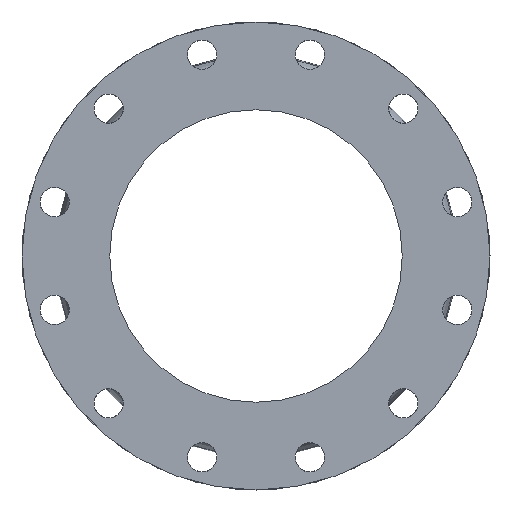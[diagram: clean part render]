
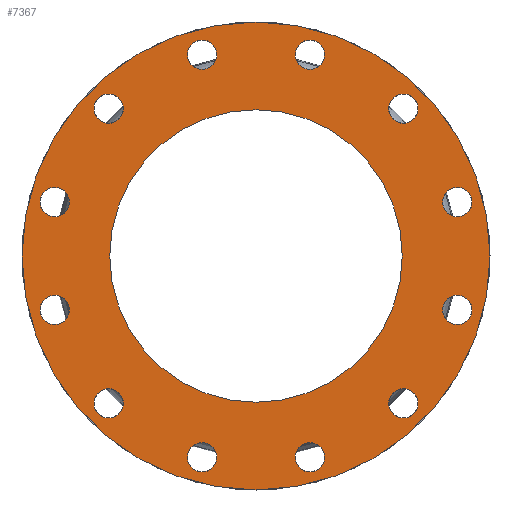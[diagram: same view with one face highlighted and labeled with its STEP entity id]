
A CAD part, left-side view. The second image highlights one B-rep face of the part: STEP entity #7367.
In plain terms, the highlighted planar face has unit normal (-1, 0, 0).
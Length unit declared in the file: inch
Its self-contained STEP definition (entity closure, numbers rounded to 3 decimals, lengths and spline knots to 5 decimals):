
#6128=CARTESIAN_POINT('',(-6.,5.28814,-4.60512));
#6129=VERTEX_POINT('',#6128);
#6130=CARTESIAN_POINT('',(-6.,5.03814,-5.03814));
#6131=DIRECTION('',(1.0,0.0,0.0));
#6132=DIRECTION('',(0.0,-0.5,-0.866));
#6133=AXIS2_PLACEMENT_3D('',#6130,#6131,#6132);
#6134=CIRCLE('',#6133,0.5);
#6135=EDGE_CURVE('',#6129,#6129,#6134,.T.);
#6156=CARTESIAN_POINT('',(-6.,2.2771,-6.63222));
#6157=VERTEX_POINT('',#6156);
#6158=CARTESIAN_POINT('',(-6.,1.84409,-6.88222));
#6159=DIRECTION('',(1.,0.0,0.0));
#6160=DIRECTION('',(0.0,-0.866,-0.5));
#6161=AXIS2_PLACEMENT_3D('',#6158,#6159,#6160);
#6162=CIRCLE('',#6161,0.5);
#6163=EDGE_CURVE('',#6157,#6157,#6162,.T.);
#6184=CARTESIAN_POINT('',(-6.,-1.34409,-6.88222));
#6185=VERTEX_POINT('',#6184);
#6186=CARTESIAN_POINT('',(-6.,-1.84409,-6.88222));
#6187=DIRECTION('',(1.0,0.0,0.0));
#6188=DIRECTION('',(0.0,-1.0,0.0));
#6189=AXIS2_PLACEMENT_3D('',#6186,#6187,#6188);
#6190=CIRCLE('',#6189,0.5);
#6191=EDGE_CURVE('',#6185,#6185,#6190,.T.);
#6212=CARTESIAN_POINT('',(-6.,-4.60512,-5.28814));
#6213=VERTEX_POINT('',#6212);
#6214=CARTESIAN_POINT('',(-6.,-5.03814,-5.03814));
#6215=DIRECTION('',(1.0,0.0,0.0));
#6216=DIRECTION('',(0.0,-0.866,0.5));
#6217=AXIS2_PLACEMENT_3D('',#6214,#6215,#6216);
#6218=CIRCLE('',#6217,0.5);
#6219=EDGE_CURVE('',#6213,#6213,#6218,.T.);
#6240=CARTESIAN_POINT('',(-6.,-6.63222,-2.2771));
#6241=VERTEX_POINT('',#6240);
#6242=CARTESIAN_POINT('',(-6.,-6.88222,-1.84409));
#6243=DIRECTION('',(1.0,0.0,0.0));
#6244=DIRECTION('',(0.0,-0.5,0.866));
#6245=AXIS2_PLACEMENT_3D('',#6242,#6243,#6244);
#6246=CIRCLE('',#6245,0.5);
#6247=EDGE_CURVE('',#6241,#6241,#6246,.T.);
#6268=CARTESIAN_POINT('',(-6.,-6.88222,1.34409));
#6269=VERTEX_POINT('',#6268);
#6270=CARTESIAN_POINT('',(-6.,-6.88222,1.84409));
#6271=DIRECTION('',(1.0,0.0,0.0));
#6272=DIRECTION('',(0.0,0.0,1.0));
#6273=AXIS2_PLACEMENT_3D('',#6270,#6271,#6272);
#6274=CIRCLE('',#6273,0.5);
#6275=EDGE_CURVE('',#6269,#6269,#6274,.T.);
#6296=CARTESIAN_POINT('',(-6.,-5.28814,4.60512));
#6297=VERTEX_POINT('',#6296);
#6298=CARTESIAN_POINT('',(-6.,-5.03814,5.03814));
#6299=DIRECTION('',(1.0,0.0,0.0));
#6300=DIRECTION('',(0.0,0.5,0.866));
#6301=AXIS2_PLACEMENT_3D('',#6298,#6299,#6300);
#6302=CIRCLE('',#6301,0.5);
#6303=EDGE_CURVE('',#6297,#6297,#6302,.T.);
#6324=CARTESIAN_POINT('',(-6.,-2.2771,6.63222));
#6325=VERTEX_POINT('',#6324);
#6326=CARTESIAN_POINT('',(-6.,-1.84409,6.88222));
#6327=DIRECTION('',(1.0,0.0,0.0));
#6328=DIRECTION('',(0.0,0.866,0.5));
#6329=AXIS2_PLACEMENT_3D('',#6326,#6327,#6328);
#6330=CIRCLE('',#6329,0.5);
#6331=EDGE_CURVE('',#6325,#6325,#6330,.T.);
#6352=CARTESIAN_POINT('',(-6.,1.34409,6.88222));
#6353=VERTEX_POINT('',#6352);
#6354=CARTESIAN_POINT('',(-6.,1.84409,6.88222));
#6355=DIRECTION('',(1.0,0.0,0.0));
#6356=DIRECTION('',(0.0,1.0,0.0));
#6357=AXIS2_PLACEMENT_3D('',#6354,#6355,#6356);
#6358=CIRCLE('',#6357,0.5);
#6359=EDGE_CURVE('',#6353,#6353,#6358,.T.);
#6380=CARTESIAN_POINT('',(-6.,4.60512,5.28814));
#6381=VERTEX_POINT('',#6380);
#6382=CARTESIAN_POINT('',(-6.,5.03814,5.03814));
#6383=DIRECTION('',(1.,0.0,0.0));
#6384=DIRECTION('',(0.0,0.866,-0.5));
#6385=AXIS2_PLACEMENT_3D('',#6382,#6383,#6384);
#6386=CIRCLE('',#6385,0.5);
#6387=EDGE_CURVE('',#6381,#6381,#6386,.T.);
#6408=CARTESIAN_POINT('',(-6.,6.63222,2.2771));
#6409=VERTEX_POINT('',#6408);
#6410=CARTESIAN_POINT('',(-6.,6.88222,1.84409));
#6411=DIRECTION('',(1.,0.0,0.0));
#6412=DIRECTION('',(0.0,0.5,-0.866));
#6413=AXIS2_PLACEMENT_3D('',#6410,#6411,#6412);
#6414=CIRCLE('',#6413,0.5);
#6415=EDGE_CURVE('',#6409,#6409,#6414,.T.);
#6436=CARTESIAN_POINT('',(-6.,6.88222,-1.34409));
#6437=VERTEX_POINT('',#6436);
#6438=CARTESIAN_POINT('',(-6.,6.88222,-1.84409));
#6439=DIRECTION('',(1.0,0.0,0.0));
#6440=DIRECTION('',(0.0,0.0,-1.0));
#6441=AXIS2_PLACEMENT_3D('',#6438,#6439,#6440);
#6442=CIRCLE('',#6441,0.5);
#6443=EDGE_CURVE('',#6437,#6437,#6442,.T.);
#6800=CARTESIAN_POINT('',(-6.,8.,0.0));
#6801=VERTEX_POINT('',#6800);
#6802=CARTESIAN_POINT('',(-6.,0.,0.0));
#6803=DIRECTION('',(1.0,0.0,0.0));
#6804=DIRECTION('',(0.0,1.0,0.0));
#6805=AXIS2_PLACEMENT_3D('',#6802,#6803,#6804);
#6806=CIRCLE('',#6805,8.);
#6807=EDGE_CURVE('',#6801,#6801,#6806,.T.);
#7305=CARTESIAN_POINT('',(-6.,5.,0.0));
#7306=VERTEX_POINT('',#7305);
#7307=CARTESIAN_POINT('',(-6.,0.,0.0));
#7308=DIRECTION('',(1.0,0.0,0.0));
#7309=DIRECTION('',(0.0,1.0,0.0));
#7310=AXIS2_PLACEMENT_3D('',#7307,#7308,#7309);
#7311=CIRCLE('',#7310,5.);
#7312=EDGE_CURVE('',#7306,#7306,#7311,.T.);
#7320=CARTESIAN_POINT('',(-6.,6.5,0.0));
#7321=DIRECTION('',(-1.0,0.0,0.0));
#7322=DIRECTION('',(0.0,0.0,1.0));
#7323=AXIS2_PLACEMENT_3D('',#7320,#7321,#7322);
#7324=PLANE('',#7323);
#7325=ORIENTED_EDGE('',*,*,#6807,.F.);
#7326=EDGE_LOOP('',(#7325));
#7327=FACE_OUTER_BOUND('',#7326,.T.);
#7328=ORIENTED_EDGE('',*,*,#6135,.T.);
#7329=EDGE_LOOP('',(#7328));
#7330=FACE_BOUND('',#7329,.T.);
#7331=ORIENTED_EDGE('',*,*,#6163,.T.);
#7332=EDGE_LOOP('',(#7331));
#7333=FACE_BOUND('',#7332,.T.);
#7334=ORIENTED_EDGE('',*,*,#6191,.T.);
#7335=EDGE_LOOP('',(#7334));
#7336=FACE_BOUND('',#7335,.T.);
#7337=ORIENTED_EDGE('',*,*,#6219,.T.);
#7338=EDGE_LOOP('',(#7337));
#7339=FACE_BOUND('',#7338,.T.);
#7340=ORIENTED_EDGE('',*,*,#6247,.T.);
#7341=EDGE_LOOP('',(#7340));
#7342=FACE_BOUND('',#7341,.T.);
#7343=ORIENTED_EDGE('',*,*,#6275,.T.);
#7344=EDGE_LOOP('',(#7343));
#7345=FACE_BOUND('',#7344,.T.);
#7346=ORIENTED_EDGE('',*,*,#6303,.T.);
#7347=EDGE_LOOP('',(#7346));
#7348=FACE_BOUND('',#7347,.T.);
#7349=ORIENTED_EDGE('',*,*,#6331,.T.);
#7350=EDGE_LOOP('',(#7349));
#7351=FACE_BOUND('',#7350,.T.);
#7352=ORIENTED_EDGE('',*,*,#6359,.T.);
#7353=EDGE_LOOP('',(#7352));
#7354=FACE_BOUND('',#7353,.T.);
#7355=ORIENTED_EDGE('',*,*,#6387,.T.);
#7356=EDGE_LOOP('',(#7355));
#7357=FACE_BOUND('',#7356,.T.);
#7358=ORIENTED_EDGE('',*,*,#6415,.T.);
#7359=EDGE_LOOP('',(#7358));
#7360=FACE_BOUND('',#7359,.T.);
#7361=ORIENTED_EDGE('',*,*,#6443,.T.);
#7362=EDGE_LOOP('',(#7361));
#7363=FACE_BOUND('',#7362,.T.);
#7364=ORIENTED_EDGE('',*,*,#7312,.T.);
#7365=EDGE_LOOP('',(#7364));
#7366=FACE_BOUND('',#7365,.T.);
#7367=ADVANCED_FACE('',(#7327,#7330,#7333,#7336,#7339,#7342,#7345,#7348,#7351,#7354,#7357,#7360,#7363,#7366),#7324,.T.);
